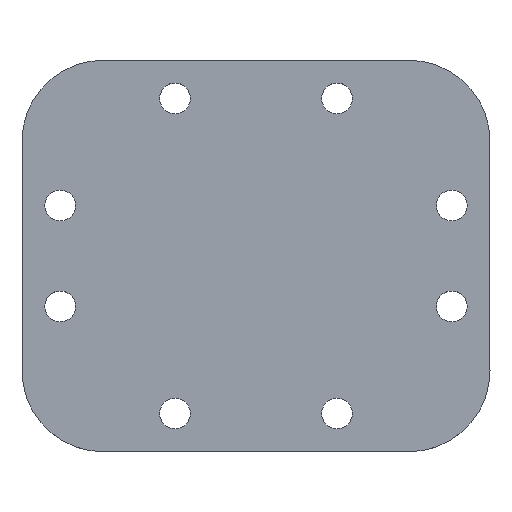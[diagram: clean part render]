
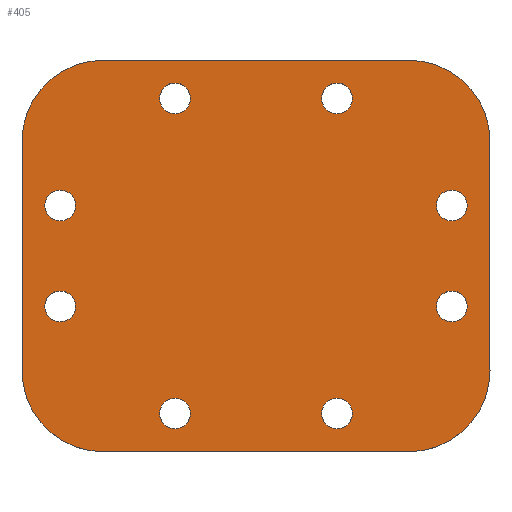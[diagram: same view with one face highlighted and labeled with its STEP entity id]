
A CAD part, top view. The second image highlights one B-rep face of the part: STEP entity #405.
In plain terms, the highlighted planar face has unit normal (0, 0, 1).
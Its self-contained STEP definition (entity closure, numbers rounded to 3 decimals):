
#15=FACE_BOUND('',#72,.T.);
#16=FACE_BOUND('',#73,.T.);
#17=FACE_BOUND('',#74,.T.);
#18=FACE_BOUND('',#75,.T.);
#19=FACE_BOUND('',#76,.T.);
#20=FACE_BOUND('',#77,.T.);
#21=FACE_BOUND('',#78,.T.);
#22=FACE_BOUND('',#79,.T.);
#35=PLANE('',#475);
#53=FACE_OUTER_BOUND('',#71,.T.);
#71=EDGE_LOOP('',(#337,#338,#339,#340,#341,#342,#343,#344));
#72=EDGE_LOOP('',(#345));
#73=EDGE_LOOP('',(#346));
#74=EDGE_LOOP('',(#347));
#75=EDGE_LOOP('',(#348));
#76=EDGE_LOOP('',(#349));
#77=EDGE_LOOP('',(#350));
#78=EDGE_LOOP('',(#351));
#79=EDGE_LOOP('',(#352));
#99=LINE('',#675,#123);
#103=LINE('',#687,#127);
#107=LINE('',#699,#131);
#111=LINE('',#711,#135);
#123=VECTOR('',#555,10.);
#127=VECTOR('',#567,10.);
#131=VECTOR('',#579,10.);
#135=VECTOR('',#591,10.);
#139=CIRCLE('',#430,1.007);
#142=CIRCLE('',#434,1.007);
#145=CIRCLE('',#438,1.007);
#148=CIRCLE('',#442,1.007);
#151=CIRCLE('',#446,1.007);
#154=CIRCLE('',#450,1.007);
#157=CIRCLE('',#454,1.007);
#160=CIRCLE('',#458,1.007);
#162=CIRCLE('',#462,5.3);
#164=CIRCLE('',#466,5.3);
#166=CIRCLE('',#470,5.3);
#168=CIRCLE('',#474,5.3);
#171=VERTEX_POINT('',#609);
#174=VERTEX_POINT('',#617);
#177=VERTEX_POINT('',#625);
#180=VERTEX_POINT('',#633);
#183=VERTEX_POINT('',#641);
#186=VERTEX_POINT('',#649);
#189=VERTEX_POINT('',#657);
#192=VERTEX_POINT('',#665);
#195=VERTEX_POINT('',#672);
#196=VERTEX_POINT('',#674);
#198=VERTEX_POINT('',#680);
#200=VERTEX_POINT('',#686);
#202=VERTEX_POINT('',#692);
#204=VERTEX_POINT('',#698);
#206=VERTEX_POINT('',#704);
#208=VERTEX_POINT('',#710);
#212=EDGE_CURVE('',#171,#171,#139,.T.);
#216=EDGE_CURVE('',#174,#174,#142,.T.);
#220=EDGE_CURVE('',#177,#177,#145,.T.);
#224=EDGE_CURVE('',#180,#180,#148,.T.);
#228=EDGE_CURVE('',#183,#183,#151,.T.);
#232=EDGE_CURVE('',#186,#186,#154,.T.);
#236=EDGE_CURVE('',#189,#189,#157,.T.);
#240=EDGE_CURVE('',#192,#192,#160,.T.);
#243=EDGE_CURVE('',#196,#195,#99,.T.);
#246=EDGE_CURVE('',#198,#196,#162,.T.);
#249=EDGE_CURVE('',#200,#198,#103,.T.);
#252=EDGE_CURVE('',#202,#200,#164,.T.);
#255=EDGE_CURVE('',#204,#202,#107,.T.);
#258=EDGE_CURVE('',#206,#204,#166,.T.);
#261=EDGE_CURVE('',#208,#206,#111,.T.);
#264=EDGE_CURVE('',#195,#208,#168,.T.);
#337=ORIENTED_EDGE('',*,*,#264,.T.);
#338=ORIENTED_EDGE('',*,*,#261,.T.);
#339=ORIENTED_EDGE('',*,*,#258,.T.);
#340=ORIENTED_EDGE('',*,*,#255,.T.);
#341=ORIENTED_EDGE('',*,*,#252,.T.);
#342=ORIENTED_EDGE('',*,*,#249,.T.);
#343=ORIENTED_EDGE('',*,*,#246,.T.);
#344=ORIENTED_EDGE('',*,*,#243,.T.);
#345=ORIENTED_EDGE('',*,*,#212,.T.);
#346=ORIENTED_EDGE('',*,*,#216,.T.);
#347=ORIENTED_EDGE('',*,*,#220,.T.);
#348=ORIENTED_EDGE('',*,*,#224,.T.);
#349=ORIENTED_EDGE('',*,*,#228,.T.);
#350=ORIENTED_EDGE('',*,*,#232,.T.);
#351=ORIENTED_EDGE('',*,*,#236,.T.);
#352=ORIENTED_EDGE('',*,*,#240,.T.);
#405=ADVANCED_FACE('',(#53,#15,#16,#17,#18,#19,#20,#21,#22),#35,.T.);
#430=AXIS2_PLACEMENT_3D('',#611,#486,#487);
#434=AXIS2_PLACEMENT_3D('',#619,#495,#496);
#438=AXIS2_PLACEMENT_3D('',#627,#504,#505);
#442=AXIS2_PLACEMENT_3D('',#635,#513,#514);
#446=AXIS2_PLACEMENT_3D('',#643,#522,#523);
#450=AXIS2_PLACEMENT_3D('',#651,#531,#532);
#454=AXIS2_PLACEMENT_3D('',#659,#540,#541);
#458=AXIS2_PLACEMENT_3D('',#667,#549,#550);
#462=AXIS2_PLACEMENT_3D('',#681,#561,#562);
#466=AXIS2_PLACEMENT_3D('',#693,#573,#574);
#470=AXIS2_PLACEMENT_3D('',#705,#585,#586);
#474=AXIS2_PLACEMENT_3D('',#715,#597,#598);
#475=AXIS2_PLACEMENT_3D('',#716,#599,#600);
#486=DIRECTION('center_axis',(0.,0.,-1.));
#487=DIRECTION('ref_axis',(1.,0.,0.));
#495=DIRECTION('center_axis',(0.,0.,-1.));
#496=DIRECTION('ref_axis',(1.,0.,0.));
#504=DIRECTION('center_axis',(0.,0.,-1.));
#505=DIRECTION('ref_axis',(1.,0.,0.));
#513=DIRECTION('center_axis',(0.,0.,-1.));
#514=DIRECTION('ref_axis',(1.,0.,0.));
#522=DIRECTION('center_axis',(0.,0.,-1.));
#523=DIRECTION('ref_axis',(1.,0.,0.));
#531=DIRECTION('center_axis',(0.,0.,-1.));
#532=DIRECTION('ref_axis',(1.,0.,0.));
#540=DIRECTION('center_axis',(0.,0.,-1.));
#541=DIRECTION('ref_axis',(1.,0.,0.));
#549=DIRECTION('center_axis',(0.,0.,-1.));
#550=DIRECTION('ref_axis',(1.,0.,0.));
#555=DIRECTION('',(-1.,0.,0.));
#561=DIRECTION('center_axis',(0.,0.,1.));
#562=DIRECTION('ref_axis',(1.,0.,0.));
#567=DIRECTION('',(0.,1.,0.));
#573=DIRECTION('center_axis',(0.,0.,1.));
#574=DIRECTION('ref_axis',(0.,-1.,0.));
#579=DIRECTION('',(1.,0.,0.));
#585=DIRECTION('center_axis',(0.,0.,1.));
#586=DIRECTION('ref_axis',(-1.,0.,0.));
#591=DIRECTION('',(0.,-1.,0.));
#597=DIRECTION('center_axis',(0.,0.,1.));
#598=DIRECTION('ref_axis',(0.,1.,0.));
#599=DIRECTION('center_axis',(0.,0.,1.));
#600=DIRECTION('ref_axis',(1.,0.,0.));
#609=CARTESIAN_POINT('',(-2.807,11.8,6.21));
#611=CARTESIAN_POINT('Origin',(-1.8,11.8,6.21));
#617=CARTESIAN_POINT('',(15.294,18.8,6.21));
#619=CARTESIAN_POINT('Origin',(16.3,18.8,6.21));
#625=CARTESIAN_POINT('',(4.693,-1.8,6.21));
#627=CARTESIAN_POINT('Origin',(5.7,-1.8,6.21));
#633=CARTESIAN_POINT('',(22.794,11.8,6.21));
#635=CARTESIAN_POINT('Origin',(23.8,11.8,6.21));
#641=CARTESIAN_POINT('',(-2.807,5.2,6.21));
#643=CARTESIAN_POINT('Origin',(-1.8,5.2,6.21));
#649=CARTESIAN_POINT('',(4.693,18.8,6.21));
#651=CARTESIAN_POINT('Origin',(5.7,18.8,6.21));
#657=CARTESIAN_POINT('',(15.294,-1.8,6.21));
#659=CARTESIAN_POINT('Origin',(16.3,-1.8,6.21));
#665=CARTESIAN_POINT('',(22.794,5.2,6.21));
#667=CARTESIAN_POINT('Origin',(23.8,5.2,6.21));
#672=CARTESIAN_POINT('',(1.,21.3,6.21));
#674=CARTESIAN_POINT('',(21.,21.3,6.21));
#675=CARTESIAN_POINT('',(21.,21.3,6.21));
#680=CARTESIAN_POINT('',(26.3,16.,6.21));
#681=CARTESIAN_POINT('Origin',(21.,16.,6.21));
#686=CARTESIAN_POINT('',(26.3,1.,6.21));
#687=CARTESIAN_POINT('',(26.3,1.,6.21));
#692=CARTESIAN_POINT('',(21.,-4.3,6.21));
#693=CARTESIAN_POINT('Origin',(21.,1.,6.21));
#698=CARTESIAN_POINT('',(1.,-4.3,6.21));
#699=CARTESIAN_POINT('',(1.,-4.3,6.21));
#704=CARTESIAN_POINT('',(-4.3,1.,6.21));
#705=CARTESIAN_POINT('Origin',(1.,1.,6.21));
#710=CARTESIAN_POINT('',(-4.3,16.,6.21));
#711=CARTESIAN_POINT('',(-4.3,16.,6.21));
#715=CARTESIAN_POINT('Origin',(1.,16.,6.21));
#716=CARTESIAN_POINT('Origin',(11.,8.5,6.21));
